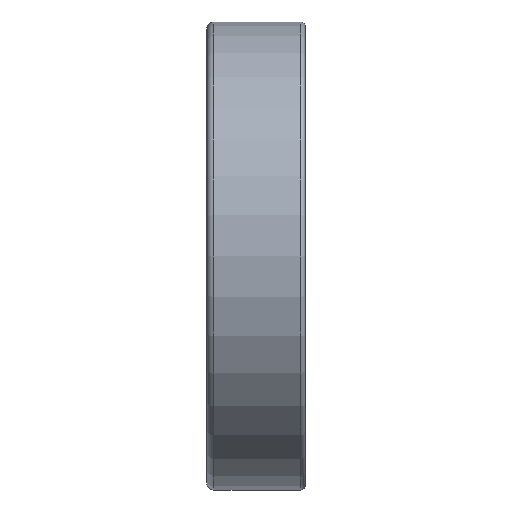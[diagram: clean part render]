
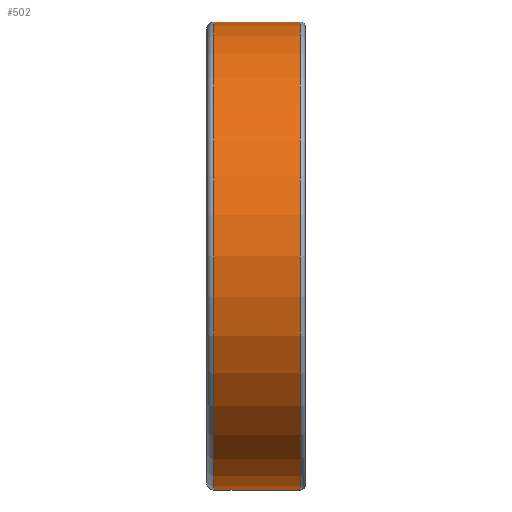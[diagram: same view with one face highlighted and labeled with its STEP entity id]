
A CAD part, front view. The second image highlights one B-rep face of the part: STEP entity #502.
In plain terms, the highlighted cylindrical face has radius 50 mm (diameter 100 mm), a full revolution.
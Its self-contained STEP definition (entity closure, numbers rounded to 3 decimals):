
#158=CYLINDRICAL_SURFACE('',#778,50.);
#246=EDGE_LOOP('',(#346));
#247=EDGE_LOOP('',(#347));
#346=ORIENTED_EDGE('',*,*,#404,.F.);
#347=ORIENTED_EDGE('',*,*,#402,.T.);
#402=EDGE_CURVE('',#711,#711,#422,.T.);
#404=EDGE_CURVE('',#713,#713,#424,.T.);
#422=CIRCLE('',#774,50.);
#424=CIRCLE('',#777,50.);
#502=ADVANCED_FACE('',(#625,#626),#158,.T.);
#625=FACE_BOUND('',#246,.T.);
#626=FACE_BOUND('',#247,.T.);
#711=VERTEX_POINT('',#1578);
#713=VERTEX_POINT('',#1583);
#774=AXIS2_PLACEMENT_3D('',#1577,#893,#894);
#777=AXIS2_PLACEMENT_3D('',#1582,#899,#900);
#778=AXIS2_PLACEMENT_3D('',#1584,#901,#902);
#893=DIRECTION('',(1.,0.,0.));
#894=DIRECTION('',(0.,0.,-1.));
#899=DIRECTION('',(1.,0.,0.));
#900=DIRECTION('',(0.,0.,-1.));
#901=DIRECTION('',(1.,0.,0.));
#902=DIRECTION('',(0.,0.,-1.));
#1577=CARTESIAN_POINT('',(-9.,0.,0.));
#1578=CARTESIAN_POINT('',(-9.,0.,-50.));
#1582=CARTESIAN_POINT('',(9.5,0.,0.));
#1583=CARTESIAN_POINT('',(9.5,0.,-50.));
#1584=CARTESIAN_POINT('',(-9.,0.,0.));
